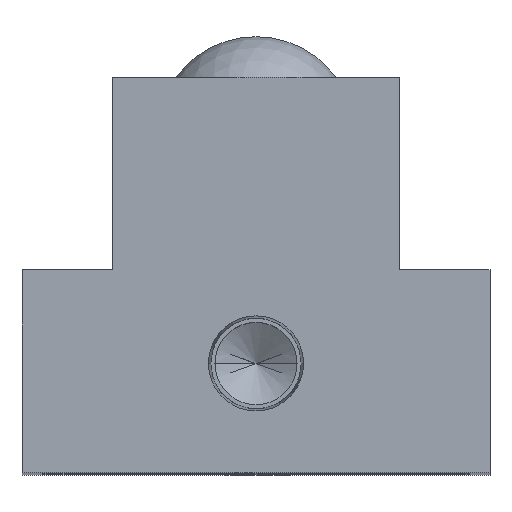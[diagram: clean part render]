
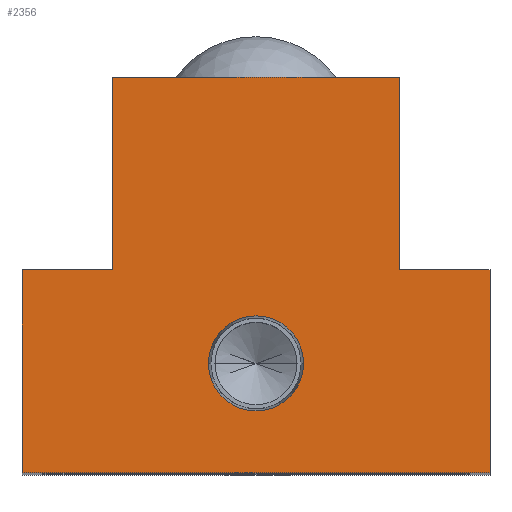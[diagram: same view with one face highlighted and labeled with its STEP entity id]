
A CAD part, top view. The second image highlights one B-rep face of the part: STEP entity #2356.
In plain terms, the highlighted planar face has unit normal (0, 0, 1).
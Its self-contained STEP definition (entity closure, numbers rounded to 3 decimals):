
#43 = LINE ( 'NONE', #255, #952 ) ;
#56 = VERTEX_POINT ( 'NONE', #2235 ) ;
#61 = CARTESIAN_POINT ( 'NONE',  ( 22.5, 0., 0. ) ) ;
#65 = LINE ( 'NONE', #712, #135 ) ;
#83 = EDGE_CURVE ( 'NONE', #633, #1804, #65, .T. ) ;
#94 = PLANE ( 'NONE',  #2254 ) ;
#135 = VECTOR ( 'NONE', #2066, 1000. ) ;
#141 = VERTEX_POINT ( 'NONE', #1508 ) ;
#153 = CIRCLE ( 'NONE', #2442, 4.574 ) ;
#179 = DIRECTION ( 'NONE',  ( 1., 0., 0. ) ) ;
#182 = ORIENTED_EDGE ( 'NONE', *, *, #2431, .T. ) ;
#207 = ORIENTED_EDGE ( 'NONE', *, *, #2086, .T. ) ;
#255 = CARTESIAN_POINT ( 'NONE',  ( -13.75, 38., 0. ) ) ;
#351 = LINE ( 'NONE', #2203, #1421 ) ;
#444 = ORIENTED_EDGE ( 'NONE', *, *, #1843, .T. ) ;
#464 = CARTESIAN_POINT ( 'NONE',  ( -13.75, 38., 0. ) ) ;
#505 = VERTEX_POINT ( 'NONE', #2191 ) ;
#616 = ORIENTED_EDGE ( 'NONE', *, *, #2257, .T. ) ;
#633 = VERTEX_POINT ( 'NONE', #464 ) ;
#647 = EDGE_CURVE ( 'NONE', #1769, #1766, #1406, .T. ) ;
#662 = ORIENTED_EDGE ( 'NONE', *, *, #1741, .T. ) ;
#712 = CARTESIAN_POINT ( 'NONE',  ( -13.75, 38., 0. ) ) ;
#746 = CARTESIAN_POINT ( 'NONE',  ( 22.5, 19.5, 0. ) ) ;
#877 = DIRECTION ( 'NONE',  ( 1., 0., 0. ) ) ;
#912 = VECTOR ( 'NONE', #2111, 1000. ) ;
#915 = VECTOR ( 'NONE', #1933, 1000. ) ;
#934 = DIRECTION ( 'NONE',  ( 0., 0., 1. ) ) ;
#952 = VECTOR ( 'NONE', #1062, 1000. ) ;
#961 = VERTEX_POINT ( 'NONE', #1970 ) ;
#991 = AXIS2_PLACEMENT_3D ( 'NONE', #2515, #1400, #179 ) ;
#1014 = VERTEX_POINT ( 'NONE', #1251 ) ;
#1058 = DIRECTION ( 'NONE',  ( 0., -1., 0. ) ) ;
#1062 = DIRECTION ( 'NONE',  ( -1., 0., 0. ) ) ;
#1065 = ORIENTED_EDGE ( 'NONE', *, *, #1613, .T. ) ;
#1115 = DIRECTION ( 'NONE',  ( -1., 0., 0. ) ) ;
#1161 = EDGE_LOOP ( 'NONE', ( #1534, #1784 ) ) ;
#1168 = CARTESIAN_POINT ( 'NONE',  ( 22.5, 19.5, 0. ) ) ;
#1203 = LINE ( 'NONE', #61, #2152 ) ;
#1251 = CARTESIAN_POINT ( 'NONE',  ( 13.75, 38., 0. ) ) ;
#1255 = CARTESIAN_POINT ( 'NONE',  ( 4.574, 10.5, 0. ) ) ;
#1400 = DIRECTION ( 'NONE',  ( 0., 0., 1. ) ) ;
#1406 = CIRCLE ( 'NONE', #991, 4.574 ) ;
#1421 = VECTOR ( 'NONE', #1058, 1000. ) ;
#1500 = LINE ( 'NONE', #2312, #2443 ) ;
#1508 = CARTESIAN_POINT ( 'NONE',  ( -22.5, 19.5, 0. ) ) ;
#1510 = EDGE_LOOP ( 'NONE', ( #207, #1929, #182, #616, #2301, #662, #1065, #444 ) ) ;
#1534 = ORIENTED_EDGE ( 'NONE', *, *, #2013, .F. ) ;
#1613 = EDGE_CURVE ( 'NONE', #141, #505, #351, .T. ) ;
#1647 = VERTEX_POINT ( 'NONE', #746 ) ;
#1650 = CARTESIAN_POINT ( 'NONE',  ( -13.75, 19.5, 0. ) ) ;
#1673 = FACE_OUTER_BOUND ( 'NONE', #1510, .T. ) ;
#1741 = EDGE_CURVE ( 'NONE', #1804, #141, #1500, .T. ) ;
#1755 = DIRECTION ( 'NONE',  ( -1., 0., 0. ) ) ;
#1766 = VERTEX_POINT ( 'NONE', #1255 ) ;
#1769 = VERTEX_POINT ( 'NONE', #1832 ) ;
#1784 = ORIENTED_EDGE ( 'NONE', *, *, #647, .F. ) ;
#1804 = VERTEX_POINT ( 'NONE', #1650 ) ;
#1832 = CARTESIAN_POINT ( 'NONE',  ( -4.574, 10.5, 0. ) ) ;
#1843 = EDGE_CURVE ( 'NONE', #505, #961, #1203, .T. ) ;
#1864 = VECTOR ( 'NONE', #2466, 1000. ) ;
#1890 = CARTESIAN_POINT ( 'NONE',  ( 0., 0., 0. ) ) ;
#1908 = CARTESIAN_POINT ( 'NONE',  ( 22.5, 19.5, 0. ) ) ;
#1913 = CARTESIAN_POINT ( 'NONE',  ( 13.75, 38., 0. ) ) ;
#1926 = EDGE_CURVE ( 'NONE', #1647, #56, #2342, .T. ) ;
#1929 = ORIENTED_EDGE ( 'NONE', *, *, #1926, .T. ) ;
#1933 = DIRECTION ( 'NONE',  ( 0., 1., 0. ) ) ;
#1943 = LINE ( 'NONE', #1913, #912 ) ;
#1947 = LINE ( 'NONE', #1168, #915 ) ;
#1970 = CARTESIAN_POINT ( 'NONE',  ( 22.5, 0., 0. ) ) ;
#2013 = EDGE_CURVE ( 'NONE', #1766, #1769, #153, .T. ) ;
#2066 = DIRECTION ( 'NONE',  ( 0., -1., 0. ) ) ;
#2086 = EDGE_CURVE ( 'NONE', #961, #1647, #1947, .T. ) ;
#2092 = CARTESIAN_POINT ( 'NONE',  ( 0., 10.5, 0. ) ) ;
#2111 = DIRECTION ( 'NONE',  ( 0., 1., 0. ) ) ;
#2152 = VECTOR ( 'NONE', #877, 1000. ) ;
#2175 = FACE_BOUND ( 'NONE', #1161, .T. ) ;
#2191 = CARTESIAN_POINT ( 'NONE',  ( -22.5, 0., 0. ) ) ;
#2203 = CARTESIAN_POINT ( 'NONE',  ( -22.5, 19.5, 0. ) ) ;
#2235 = CARTESIAN_POINT ( 'NONE',  ( 13.75, 19.5, 0. ) ) ;
#2252 = DIRECTION ( 'NONE',  ( 0., 0., -1. ) ) ;
#2254 = AXIS2_PLACEMENT_3D ( 'NONE', #1890, #2252, #1115 ) ;
#2257 = EDGE_CURVE ( 'NONE', #1014, #633, #43, .T. ) ;
#2271 = DIRECTION ( 'NONE',  ( 1., 0., 0. ) ) ;
#2301 = ORIENTED_EDGE ( 'NONE', *, *, #83, .T. ) ;
#2312 = CARTESIAN_POINT ( 'NONE',  ( -13.75, 19.5, 0. ) ) ;
#2342 = LINE ( 'NONE', #1908, #1864 ) ;
#2356 = ADVANCED_FACE ( 'NONE', ( #2175, #1673 ), #94, .F. ) ;
#2431 = EDGE_CURVE ( 'NONE', #56, #1014, #1943, .T. ) ;
#2442 = AXIS2_PLACEMENT_3D ( 'NONE', #2092, #934, #2271 ) ;
#2443 = VECTOR ( 'NONE', #1755, 1000. ) ;
#2466 = DIRECTION ( 'NONE',  ( -1., 0., 0. ) ) ;
#2515 = CARTESIAN_POINT ( 'NONE',  ( 0., 10.5, 0. ) ) ;
